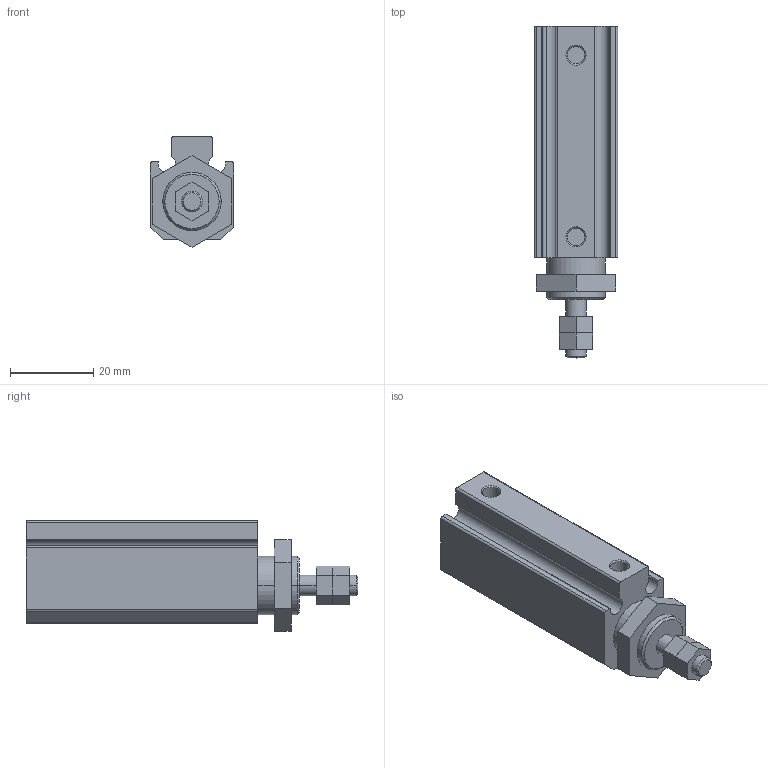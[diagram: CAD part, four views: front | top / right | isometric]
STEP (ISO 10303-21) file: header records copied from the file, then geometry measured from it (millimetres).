
FILE_DESCRIPTION((''),'2;1');
FILE_NAME('D:\CHANTO-3D-已完成\2010\第三大類\第三大類-3D\AAP-3D\AAP16X30.stp','2010-09-18T08:42:16',('Administrator'),(''),'Autodesk Inventor 8','Autodesk Inventor 8','');
FILE_SCHEMA(('AUTOMOTIVE_DESIGN { 1 0 10303 214 1 1 1 1 }'));
Length unit declared in the file: millimetre
Products named in the file (1): AAP16X30
Bounding box: 20 x 79.5 x 26.47 mm (x, y, z)
Volume: 24876.9 mm3; surface area: 7443.7 mm2
Topology: 1 solids, 1 shells, 78 faces, 190 edges, 124 vertices
Faces by surface type: plane 40, cylinder 30, cone 8
Entity records: 2321 total; most frequent: DIRECTION 416, CARTESIAN_POINT 393, ORIENTED_EDGE 380, EDGE_CURVE 190, AXIS2_PLACEMENT_3D 147, VERTEX_POINT 124, VECTOR 122, LINE 122
